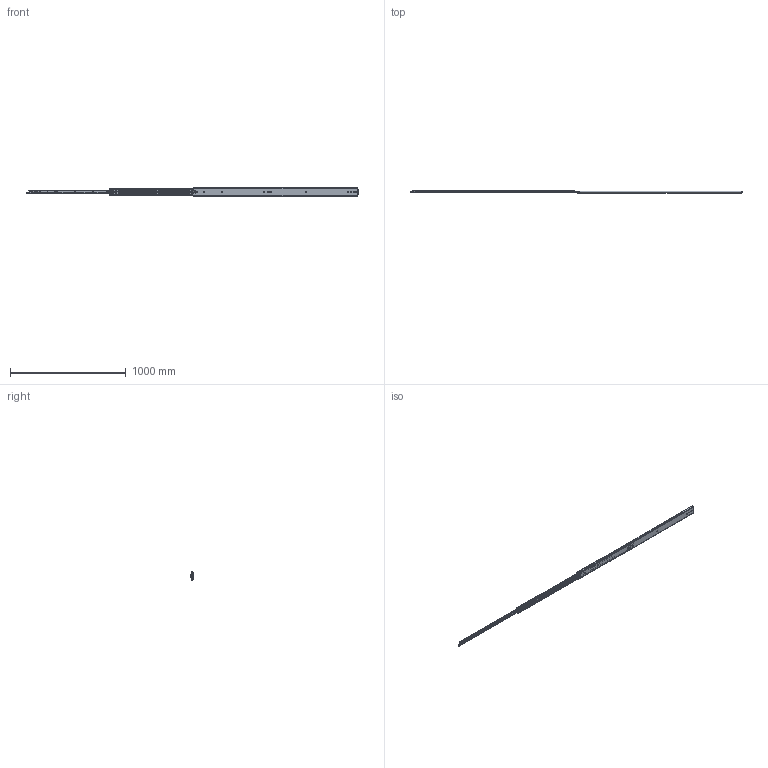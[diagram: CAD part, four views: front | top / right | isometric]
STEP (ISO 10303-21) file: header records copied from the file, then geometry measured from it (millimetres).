
FILE_DESCRIPTION((''),'2;1');
FILE_NAME('DG-76-3S-56ZUO_ASM','2023-05-11T',('jishu015'),(''),'PRO/ENGINEER BY PARAMETRIC TECHNOLOGY CORPORATION, 2010280','PRO/ENGINEER BY PARAMETRIC TECHNOLOGY CORPORATION, 2010280','');
FILE_SCHEMA(('CONFIG_CONTROL_DESIGN'));
Products named in the file (29): KP-76-04WAIKE-1816_____________; 1076-WAIKEZIDANJIAO1621__; WAIK16______________ASM; 1076XIAOZHUTIAO-2251621__; 16_____________; 1076XIAOZHUTIAO-1751621___ASM; KP-76-04ZHONGGUI181611_; 76CHANGGUIZHONGGUIJIAO1621_____; 3X6WODIN16_____________; ZHONGGUIBAIKOU16_____________; PJ-76-30____________; PJ-76-03____________; 76-XIAOZHUJIA-11____________; GANGZHU-XIAO____________; ZHUJIA-XIAO_____________ASM; ZHONGGUI6______________ASM; KP-76-04NEIGUI1816_____________; PJ-76-31____________; DAOGPIAN16_____________; 1053-3SBANJ01____________; JIAO-11____________; 76XINSUOKOU____________; PJ-338____________; PJ-356____________; PJ-357____________; PJ-336____________; M4X4____________; NEIGUI16______________ASM; DG-76-3S-56ZUO_ASM
Assembly tree (108 placements, depth 4):
  DG-76-3S-56ZUO_ASM
    WAIK16______________ASM
      KP-76-04WAIKE-1816_____________
      1076-WAIKEZIDANJIAO1621__  x2
    1076XIAOZHUTIAO-1751621___ASM  x2
      1076XIAOZHUTIAO-2251621__
      16_____________
    ZHONGGUI6______________ASM
      KP-76-04ZHONGGUI181611_
      76CHANGGUIZHONGGUIJIAO1621_____
      3X6WODIN16_____________
      ZHONGGUIBAIKOU16_____________
      PJ-76-30____________
      PJ-76-03____________
      ZHUJIA-XIAO_____________ASM
        76-XIAOZHUJIA-11____________
        GANGZHU-XIAO____________  x54
    NEIGUI16______________ASM
      KP-76-04NEIGUI1816_____________
      PJ-76-31____________
      DAOGPIAN16_____________
      1053-3SBANJ01____________
      JIAO-11____________
      76XINSUOKOU____________
      PJ-338____________
      PJ-356____________
      PJ-357____________
      PJ-336____________
      M4X4____________
Bounding box: 2870.72 x 20.7 x 75.3 mm (x, y, z)
Volume: 942197 mm3; surface area: 908427.1 mm2
Topology: 130 solids, 130 shells, 2965 faces, 9113 edges, 5737 vertices
Faces by surface type: plane 1537, cylinder 1082, sphere 219, bspline 60, cone 28, extrusion 23, torus 16
Entity records: 93696 total; most frequent: CARTESIAN_POINT 24640, ORIENTED_EDGE 15230, DIRECTION 13610, EDGE_CURVE 7615, VERTEX_POINT 4961, AXIS2_PLACEMENT_3D 4709, VECTOR 4192, LINE 4169
